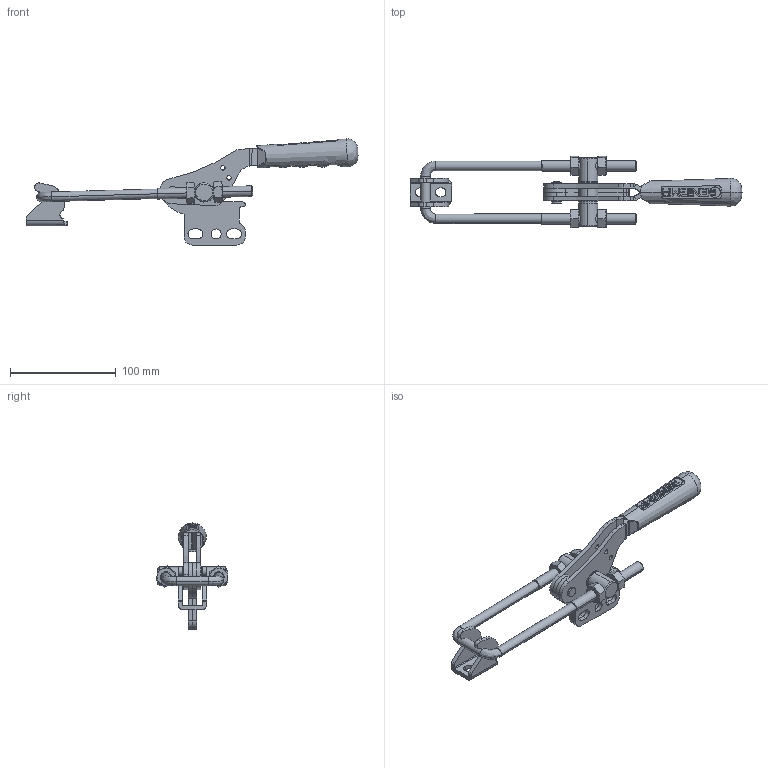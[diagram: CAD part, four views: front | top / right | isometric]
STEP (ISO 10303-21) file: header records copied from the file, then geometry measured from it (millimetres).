
FILE_DESCRIPTION (( 'STEP AP203' ), '1' );
FILE_NAME ('13010_D.STEP', '2022-11-30T09:15:07', ( '' ), ( '' ), 'SwSTEP 2.0', 'SolidWorks 2023', '' );
FILE_SCHEMA (( 'CONFIG_CONTROL_DESIGN' ));
Length unit declared in the file: millimetre
Products named in the file (11): 13010_H.KOLU_2022_30.11.2022_Varsay_X2_0131_X0_lan; Mirror2022_13108_13110_Y_G_X2_00d6_X0_VDE; 13010_D; 13110_OTOMAT_Varsay_X2_0131_X0_lan; 2022_13108_13110_Y_G_X2_00d6_X0_VDE; 6x21_PER_X2_00c70130_X0_N_Varsay_X2_0131_X0_lan; M10_S(SOMUN)_Varsay_X2_0131_X0_lan; M10x90_U_KANCA_Varsay_X2_0131_X0_lan; M8-M10_REV1_DefaultSM-FLAT-PATTERN; C95_Yeni_Tutamak_Varsay_X2_0131_X0_lan; Mirror13010_H.KOLU_2022_30.11.2022_Varsay_X2_0131_X0_lan
Assembly tree (13 placements, depth 2):
  13010_D
    2022_13108_13110_Y_G_X2_00d6_X0_VDE
    13110_OTOMAT_Varsay_X2_0131_X0_lan
    Mirror2022_13108_13110_Y_G_X2_00d6_X0_VDE
    M10x90_U_KANCA_Varsay_X2_0131_X0_lan
    M8-M10_REV1_DefaultSM-FLAT-PATTERN
    C95_Yeni_Tutamak_Varsay_X2_0131_X0_lan
    6x21_PER_X2_00c70130_X0_N_Varsay_X2_0131_X0_lan
    M10_S(SOMUN)_Varsay_X2_0131_X0_lan  x4
    13010_H.KOLU_2022_30.11.2022_Varsay_X2_0131_X0_lan
    Mirror13010_H.KOLU_2022_30.11.2022_Varsay_X2_0131_X0_lan
Bounding box: 313.9 x 67.41 x 100.35 mm (x, y, z)
Volume: 141087.8 mm3; surface area: 71989.2 mm2
Topology: 13 solids, 13 shells, 568 faces, 1476 edges, 951 vertices
Faces by surface type: plane 272, cylinder 174, cone 74, bspline 48
Entity records: 30133 total; most frequent: CARTESIAN_POINT 17023, ORIENTED_EDGE 2540, DIRECTION 2352, EDGE_CURVE 1270, VERTEX_POINT 819, AXIS2_PLACEMENT_3D 792, VECTOR 768, LINE 768
